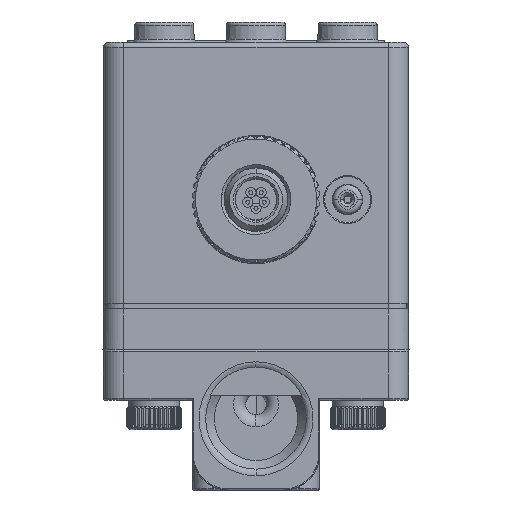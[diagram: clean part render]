
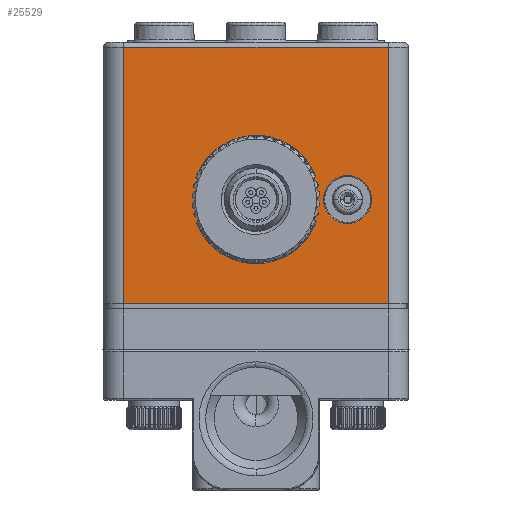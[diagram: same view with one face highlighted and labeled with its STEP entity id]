
A CAD part, front view. The second image highlights one B-rep face of the part: STEP entity #25529.
In plain terms, the highlighted planar face has unit normal (0, -1, 0).
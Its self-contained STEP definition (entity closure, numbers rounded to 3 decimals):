
#2507=DIRECTION('',(1.,0.,0.));
#2508=VECTOR('',#2507,26.);
#2509=CARTESIAN_POINT('',(-13.,-15.,4.5));
#2510=LINE('',#2509,#2508);
#2511=DIRECTION('',(0.,0.,-1.));
#2512=VECTOR('',#2511,25.2);
#2513=CARTESIAN_POINT('',(-13.,-15.,29.7));
#2514=LINE('',#2513,#2512);
#2515=DIRECTION('',(1.,0.,0.));
#2516=VECTOR('',#2515,26.);
#2517=CARTESIAN_POINT('',(-13.,-15.,29.7));
#2518=LINE('',#2517,#2516);
#2519=DIRECTION('',(0.,0.,-1.));
#2520=VECTOR('',#2519,25.2);
#2521=CARTESIAN_POINT('',(13.,-15.,29.7));
#2522=LINE('',#2521,#2520);
#2523=CARTESIAN_POINT('',(0.,-15.,14.75));
#2524=DIRECTION('',(0.,-1.,0.));
#2525=DIRECTION('',(-0.898,0.,-0.44));
#2526=AXIS2_PLACEMENT_3D('',#2523,#2524,#2525);
#2528=DIRECTION('',(-0.017,0.,-1.));
#2529=VECTOR('',#2528,2.35);
#2530=CARTESIAN_POINT('',(5.8,-15.,14.75));
#2531=LINE('',#2530,#2529);
#2532=DIRECTION('',(0.017,0.,-1.));
#2533=VECTOR('',#2532,2.35);
#2534=CARTESIAN_POINT('',(5.759,-15.,17.1));
#2535=LINE('',#2534,#2533);
#2536=CARTESIAN_POINT('',(0.,-15.,14.75));
#2537=DIRECTION('',(0.,-1.,0.));
#2538=DIRECTION('',(0.898,0.,0.44));
#2539=AXIS2_PLACEMENT_3D('',#2536,#2537,#2538);
#2541=DIRECTION('',(0.017,0.,1.));
#2542=VECTOR('',#2541,2.35);
#2543=CARTESIAN_POINT('',(-5.8,-15.,14.75));
#2544=LINE('',#2543,#2542);
#2545=DIRECTION('',(-0.017,0.,1.));
#2546=VECTOR('',#2545,2.35);
#2547=CARTESIAN_POINT('',(-5.759,-15.,12.4));
#2548=LINE('',#2547,#2546);
#2549=CARTESIAN_POINT('',(9.,-15.,14.75));
#2550=DIRECTION('',(0.,1.,0.));
#2551=DIRECTION('',(-1.,0.,0.));
#2552=AXIS2_PLACEMENT_3D('',#2549,#2550,#2551);
#2554=CARTESIAN_POINT('',(9.,-15.,14.75));
#2555=DIRECTION('',(0.,1.,0.));
#2556=DIRECTION('',(1.,0.,0.));
#2557=AXIS2_PLACEMENT_3D('',#2554,#2555,#2556);
#7839=CARTESIAN_POINT('',(-4.759,-15.,17.083));
#7840=DIRECTION('',(0.,1.,0.));
#7841=DIRECTION('',(-1.,0.,0.017));
#7842=AXIS2_PLACEMENT_3D('',#7839,#7840,#7841);
#8616=CARTESIAN_POINT('',(4.759,-15.,17.083));
#8617=DIRECTION('',(0.,1.,0.));
#8618=DIRECTION('',(0.898,0.,0.44));
#8619=AXIS2_PLACEMENT_3D('',#8616,#8617,#8618);
#8671=CARTESIAN_POINT('',(4.759,-15.,12.417));
#8672=DIRECTION('',(0.,1.,0.));
#8673=DIRECTION('',(1.,0.,-0.017));
#8674=AXIS2_PLACEMENT_3D('',#8671,#8672,#8673);
#11919=CARTESIAN_POINT('',(-4.759,-15.,12.417));
#11920=DIRECTION('',(0.,1.,0.));
#11921=DIRECTION('',(-0.898,0.,-0.44));
#11922=AXIS2_PLACEMENT_3D('',#11919,#11920,#11921);
#19570=CARTESIAN_POINT('',(-13.,-15.,4.5));
#19571=CARTESIAN_POINT('',(13.,-15.,4.5));
#19572=VERTEX_POINT('',#19570);
#19573=VERTEX_POINT('',#19571);
#19594=CARTESIAN_POINT('',(13.,-15.,29.7));
#19595=VERTEX_POINT('',#19594);
#19600=CARTESIAN_POINT('',(-13.,-15.,29.7));
#19601=VERTEX_POINT('',#19600);
#19702=CARTESIAN_POINT('',(6.646,-15.,14.75));
#19703=CARTESIAN_POINT('',(11.354,-15.,14.75));
#19704=VERTEX_POINT('',#19702);
#19705=VERTEX_POINT('',#19703);
#19896=CARTESIAN_POINT('',(5.8,-15.,14.75));
#19897=VERTEX_POINT('',#19896);
#19907=CARTESIAN_POINT('',(5.759,-15.,17.1));
#19908=VERTEX_POINT('',#19907);
#19909=CARTESIAN_POINT('',(5.759,-15.,12.4));
#19910=VERTEX_POINT('',#19909);
#19911=CARTESIAN_POINT('',(5.657,-15.,17.523));
#19912=VERTEX_POINT('',#19911);
#19913=CARTESIAN_POINT('',(5.657,-15.,11.977));
#19914=VERTEX_POINT('',#19913);
#19922=CARTESIAN_POINT('',(-5.657,-15.,17.523));
#19923=VERTEX_POINT('',#19922);
#19924=CARTESIAN_POINT('',(-5.657,-15.,11.977));
#19925=VERTEX_POINT('',#19924);
#19936=CARTESIAN_POINT('',(-5.759,-15.,12.4));
#19937=CARTESIAN_POINT('',(-5.8,-15.,14.75));
#19938=VERTEX_POINT('',#19936);
#19939=VERTEX_POINT('',#19937);
#19940=CARTESIAN_POINT('',(-5.759,-15.,17.1));
#19941=VERTEX_POINT('',#19940);
#25488=CARTESIAN_POINT('',(-15.,-15.,2.9));
#25489=DIRECTION('',(0.,-1.,0.));
#25490=DIRECTION('',(1.,0.,0.));
#25491=AXIS2_PLACEMENT_3D('',#25488,#25489,#25490);
#25492=PLANE('',#25491);
#25493=ORIENTED_EDGE('',*,*,#24181,.F.);
#25495=ORIENTED_EDGE('',*,*,#25494,.F.);
#25497=ORIENTED_EDGE('',*,*,#25496,.T.);
#25498=ORIENTED_EDGE('',*,*,#25480,.T.);
#25499=EDGE_LOOP('',(#25493,#25495,#25497,#25498));
#25500=FACE_OUTER_BOUND('',#25499,.F.);
#25502=ORIENTED_EDGE('',*,*,#25501,.T.);
#25504=ORIENTED_EDGE('',*,*,#25503,.F.);
#25506=ORIENTED_EDGE('',*,*,#25505,.F.);
#25508=ORIENTED_EDGE('',*,*,#25507,.F.);
#25510=ORIENTED_EDGE('',*,*,#25509,.F.);
#25512=ORIENTED_EDGE('',*,*,#25511,.T.);
#25514=ORIENTED_EDGE('',*,*,#25513,.F.);
#25516=ORIENTED_EDGE('',*,*,#25515,.F.);
#25518=ORIENTED_EDGE('',*,*,#25517,.F.);
#25520=ORIENTED_EDGE('',*,*,#25519,.F.);
#25521=EDGE_LOOP('',(#25502,#25504,#25506,#25508,#25510,#25512,#25514,#25516,
#25518,#25520));
#25522=FACE_BOUND('',#25521,.F.);
#25524=ORIENTED_EDGE('',*,*,#25523,.F.);
#25526=ORIENTED_EDGE('',*,*,#25525,.F.);
#25527=EDGE_LOOP('',(#25524,#25526));
#25528=FACE_BOUND('',#25527,.F.);
#25529=ADVANCED_FACE('',(#25500,#25522,#25528),#25492,.T.);
#2527=CIRCLE('',#2526,6.3);
#2540=CIRCLE('',#2539,6.3);
#2553=CIRCLE('',#2552,2.354);
#2558=CIRCLE('',#2557,2.354);
#7843=CIRCLE('',#7842,1.);
#8620=CIRCLE('',#8619,1.);
#8675=CIRCLE('',#8674,1.);
#11923=CIRCLE('',#11922,1.);
#24181=EDGE_CURVE('',#19572,#19573,#2510,.T.);
#25480=EDGE_CURVE('',#19595,#19573,#2522,.T.);
#25494=EDGE_CURVE('',#19601,#19572,#2514,.T.);
#25496=EDGE_CURVE('',#19601,#19595,#2518,.T.);
#25501=EDGE_CURVE('',#19925,#19914,#2527,.T.);
#25503=EDGE_CURVE('',#19910,#19914,#8675,.T.);
#25505=EDGE_CURVE('',#19897,#19910,#2531,.T.);
#25507=EDGE_CURVE('',#19908,#19897,#2535,.T.);
#25509=EDGE_CURVE('',#19912,#19908,#8620,.T.);
#25511=EDGE_CURVE('',#19912,#19923,#2540,.T.);
#25513=EDGE_CURVE('',#19941,#19923,#7843,.T.);
#25515=EDGE_CURVE('',#19939,#19941,#2544,.T.);
#25517=EDGE_CURVE('',#19938,#19939,#2548,.T.);
#25519=EDGE_CURVE('',#19925,#19938,#11923,.T.);
#25523=EDGE_CURVE('',#19704,#19705,#2553,.T.);
#25525=EDGE_CURVE('',#19705,#19704,#2558,.T.);
